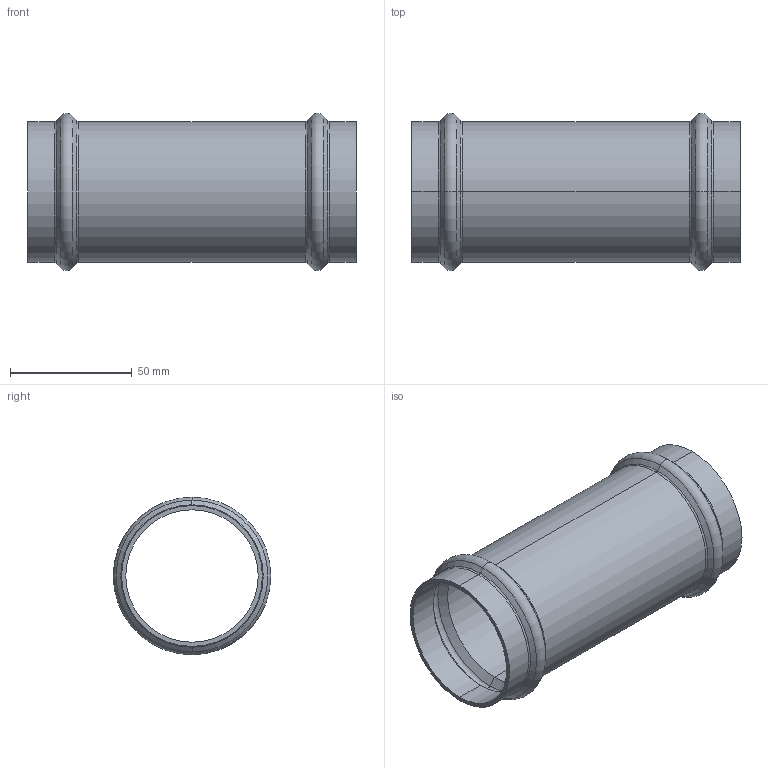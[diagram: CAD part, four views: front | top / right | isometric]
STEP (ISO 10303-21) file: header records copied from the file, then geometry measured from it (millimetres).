
FILE_DESCRIPTION (( 'STEP AP203' ), '1' );
FILE_NAME ('SP5275 54.STEP', '2017-04-24T09:23:48', ( '' ), ( '' ), 'SwSTEP 2.0', 'SolidWorks 2016', '' );
FILE_SCHEMA (( 'CONFIG_CONTROL_DESIGN' ));
Length unit declared in the file: millimetre
Products named in the file (1): SP5275 54
Bounding box: 135 x 64.7 x 64.7 mm (x, y, z)
Volume: 41284.5 mm3; surface area: 50912.8 mm2
Topology: 1 solids, 1 shells, 46 faces, 92 edges, 48 vertices
Faces by surface type: torus 16, cone 16, cylinder 12, plane 2
Entity records: 1261 total; most frequent: DIRECTION 250, CARTESIAN_POINT 187, ORIENTED_EDGE 184, AXIS2_PLACEMENT_3D 111, EDGE_CURVE 92, CIRCLE 64, EDGE_LOOP 48, VERTEX_POINT 48
